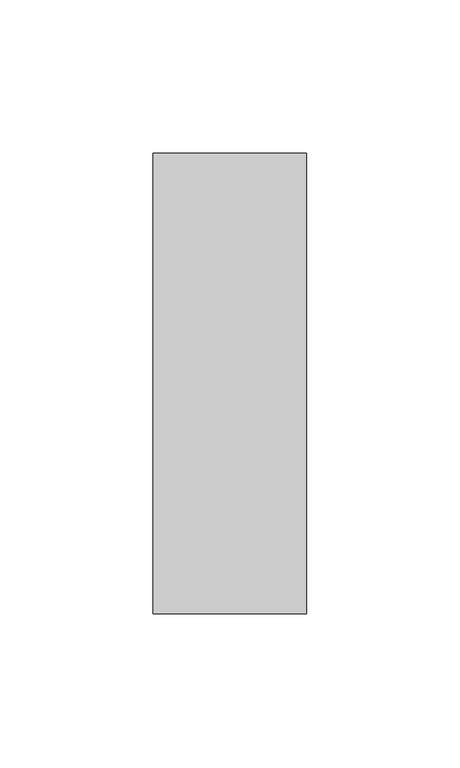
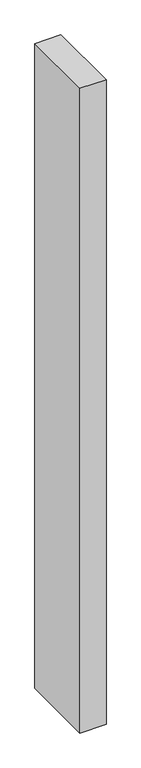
"""IFC4 building model written with IfcOpenShell, lengths in millimetres: member geometry, Прямоугольный импост : 50 x 150 мм."""

from ifc_helpers import new_model, si_unit, frame, origin, place, context, project, spatial, polyline, outline, extrude, source, transform, mapped, element, save


def member_a92e27e1(model_context):
    return source(origin(), model_context, "Body", "SweptSolid", [
        extrude(outline(polyline([(25.0, 75.0), (25.0, -75.0), (-25.0, -75.0), (-25.0, 75.0), (25.0, 75.0)])), frame((0.0, 0.0, -1309.2495937), z_axis=(0.0, 0.0, 1.0), x_axis=(1.0, 0.0, 0.0)), (0.0, 0.0, 1.0), 1309.2495937),
    ])


if __name__ == "__main__":
    model = new_model("IFC4")
    model_context = context("Model", 3, world=origin())
    ifc_project = project(units=[si_unit("LENGTHUNIT", "METRE", prefix="MILLI")], contexts=[model_context])
    site = spatial("IfcSite", under=ifc_project)
    building = spatial("IfcBuilding", under=site)
    placement = place(None, origin())
    member_shape = member_a92e27e1(model_context)
    element("IfcMember", 1, ObjectType="Прямоугольный импост : 50 x 150 мм", at=placement, inside=building, context=model_context, shape_type="MappedRepresentation", body=[
        mapped(member_shape, transform((0.0, 0.0, 0.0), x_axis=(1.0, 0.0, 0.0), y_axis=(0.0, 1.0, 0.0), z_axis=(0.0, 0.0, 1.0))),
    ])
    save(model, "model.ifc")
